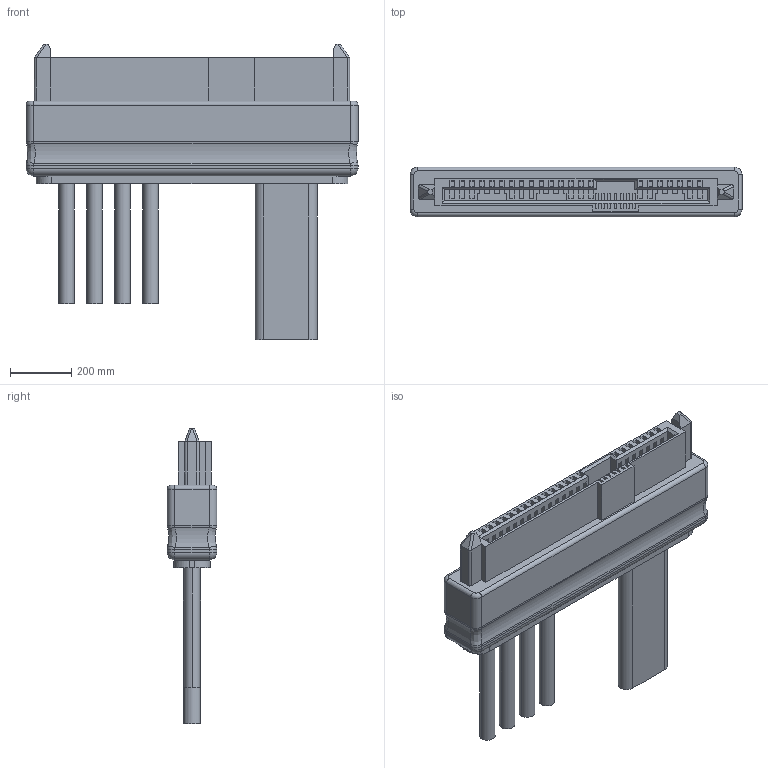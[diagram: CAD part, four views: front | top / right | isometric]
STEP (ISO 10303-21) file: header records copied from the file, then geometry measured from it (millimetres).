
FILE_DESCRIPTION((''),'2;1');
FILE_NAME('AMTA_29P_SAS','2010-09-01T',('rogerluo'),(''),'PRO/ENGINEER BY PARAMETRIC TECHNOLOGY CORPORATION, 2006380','PRO/ENGINEER BY PARAMETRIC TECHNOLOGY CORPORATION, 2006380','');
FILE_SCHEMA(('CONFIG_CONTROL_DESIGN'));
Length unit declared in the file: inch
Products named in the file (1): AMTA_29P_SAS
Bounding box: 1082.04 x 162.56 x 962.66 mm (x, y, z)
Volume: 59821302.1 mm3; surface area: 2294155.3 mm2
Topology: 1 solids, 1 shells, 647 faces, 1901 edges, 1240 vertices
Faces by surface type: plane 573, cylinder 54, sphere 12, torus 4, bspline 4
Entity records: 21361 total; most frequent: CARTESIAN_POINT 4026, ORIENTED_EDGE 3802, DIRECTION 3259, EDGE_CURVE 1901, VECTOR 1773, LINE 1773, VERTEX_POINT 1240, AXIS2_PLACEMENT_3D 743
